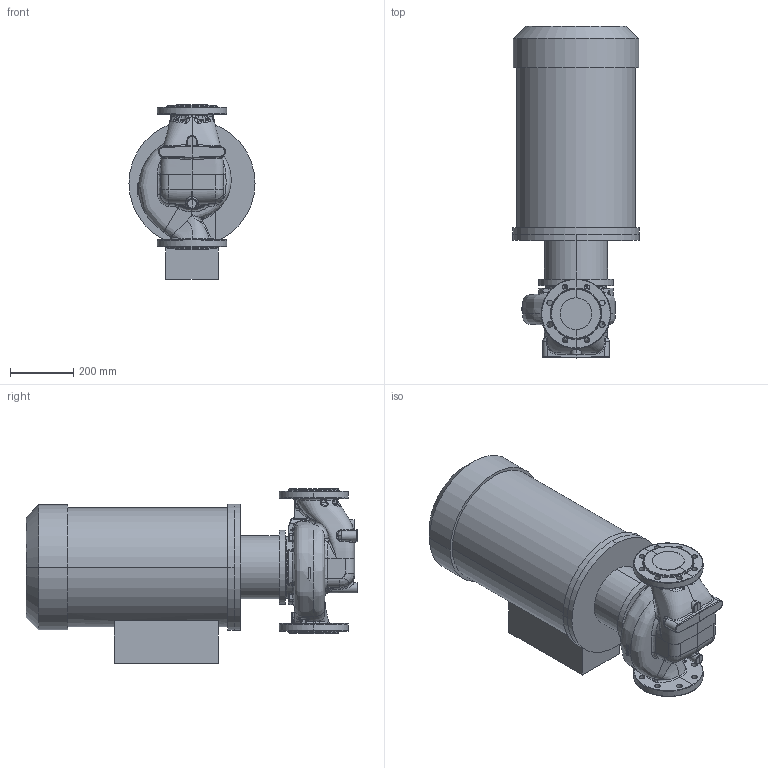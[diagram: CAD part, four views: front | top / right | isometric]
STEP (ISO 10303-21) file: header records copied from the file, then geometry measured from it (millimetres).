
FILE_DESCRIPTION (( 'STEP AP214' ), '1' );
FILE_NAME ('KRL 100-170-2-30.STEP', '2026-04-06T13:55:50', ( '' ), ( '' ), 'SwSTEP 2.0', 'SolidWorks 2016', '' );
FILE_SCHEMA (( 'AUTOMOTIVE_DESIGN' ));
Length unit declared in the file: millimetre
Products named in the file (1): KRL 100-170-2-30
Bounding box: 400 x 1052.8 x 555 mm (x, y, z)
Volume: 103804022.3 mm3; surface area: 2166511.2 mm2
Topology: 4 solids, 4 shells, 668 faces, 1701 edges, 1010 vertices
Faces by surface type: bspline 330, cylinder 172, plane 114, cone 20, torus 16, sphere 16
Entity records: 62323 total; most frequent: CARTESIAN_POINT 42240, ORIENTED_EDGE 3338, DIRECTION 1787, EDGE_CURVE 1669, VERTEX_POINT 1010, AXIS2_PLACEMENT_3D 735, EDGE_LOOP 701, UNCERTAINTY_MEASURE_WITH_UNIT 674
